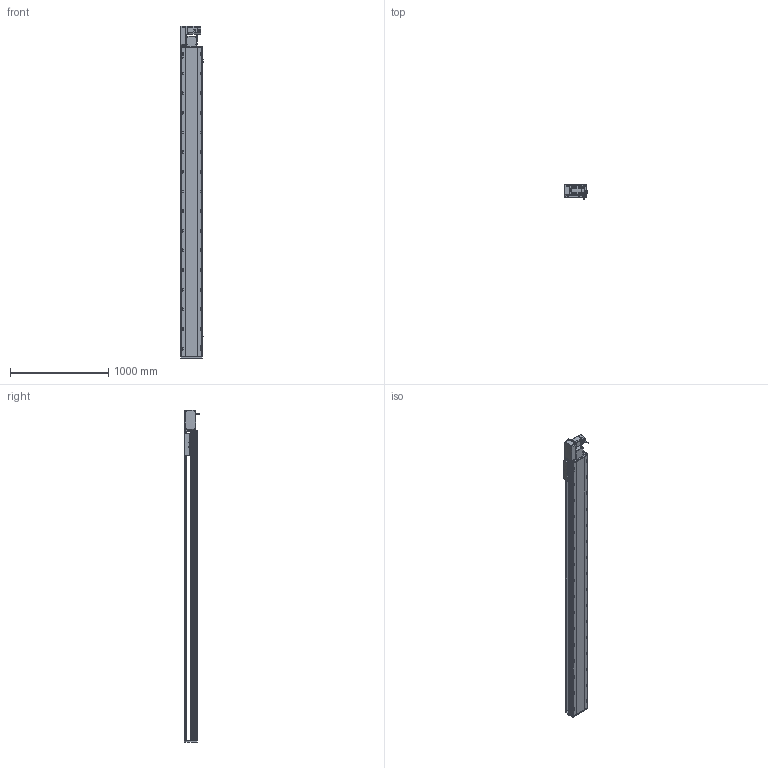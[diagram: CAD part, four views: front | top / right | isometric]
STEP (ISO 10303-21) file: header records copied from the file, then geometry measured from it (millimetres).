
FILE_DESCRIPTION (( 'STEP AP214' ), '1' );
FILE_NAME ('RTB22S-XX-2800-L-M75-C4.STEP', '2025-12-12T03:29:28', ( '' ), ( '' ), 'SwSTEP 2.0', 'SolidWorks 2018', '' );
FILE_SCHEMA (( 'AUTOMOTIVE_DESIGN' ));
Length unit declared in the file: millimetre
Products named in the file (14): RTB22S-XX-2800-L-M75-C4; RTB22S-GY-005P^RTB22S-L-々湍釱蚾饜_RTB22S-XX-XX-L-M75-C4; RTB22S-GY-018P^RTB22S-L-々湍釱蚾饜_RTB22S-XX-XX-L-M75-C4; RTB22S-GY-014--々湍釱^RTB22S-L-々湍釱蚾饜_RTB22S-XX-XX-L-M75-C4; RTB22S-GY-001耜裔^RTB22S-XX-XX-L-M75-C4; RTB22S-L-々湍釱蚾饜^RTB22S-XX-XX-L-M75-C4; RTH22-GY-013外置感应片^RTB22S-XX-XX-L-M75-C4; RTB22S-GY-007奻裔^RTB22S-XX-XX-L-M75-C4; OMRON EE-SX672 传感器^RTB22S-XX-XX-L-M75-C4; RTB22S-L-004賑釱^RTB22S-XX-XX-L-M75-C4; RTB22S-L-011菁釱^RTB22S-XX-XX-L-M75-C4; RTB22S-GY-017P^RTB22S-L-々湍釱蚾饜_RTB22S-XX-XX-L-M75-C4; RTB22S-GY-008-M75--萇儂啣^RTB22S-L-々湍釱蚾饜_RTB22S-XX-XX-L-M75-C4; 750W萇儂^RTB22S-XX-XX-L-M75-C4
Assembly tree (16 placements, depth 3):
  RTB22S-XX-2800-L-M75-C4
    RTB22S-L-011菁釱^RTB22S-XX-XX-L-M75-C4
    750W萇儂^RTB22S-XX-XX-L-M75-C4
    RTB22S-L-004賑釱^RTB22S-XX-XX-L-M75-C4
    OMRON EE-SX672 传感器^RTB22S-XX-XX-L-M75-C4  x3
    RTH22-GY-013外置感应片^RTB22S-XX-XX-L-M75-C4
    RTB22S-GY-007奻裔^RTB22S-XX-XX-L-M75-C4
    RTB22S-GY-001耜裔^RTB22S-XX-XX-L-M75-C4
    RTB22S-L-々湍釱蚾饜^RTB22S-XX-XX-L-M75-C4
      RTB22S-GY-014--々湍釱^RTB22S-L-々湍釱蚾饜_RTB22S-XX-XX-L-M75-C4
      RTB22S-GY-017P^RTB22S-L-々湍釱蚾饜_RTB22S-XX-XX-L-M75-C4  x2
      RTB22S-GY-005P^RTB22S-L-々湍釱蚾饜_RTB22S-XX-XX-L-M75-C4
      RTB22S-GY-008-M75--萇儂啣^RTB22S-L-々湍釱蚾饜_RTB22S-XX-XX-L-M75-C4
      RTB22S-GY-018P^RTB22S-L-々湍釱蚾饜_RTB22S-XX-XX-L-M75-C4
Bounding box: 238.5 x 162.7 x 3379 mm (x, y, z)
Volume: 42262792.4 mm3; surface area: 4312201.7 mm2
Topology: 15 solids, 15 shells, 2127 faces, 5786 edges, 3692 vertices
Faces by surface type: plane 931, cylinder 718, bspline 296, cone 170, sphere 8, torus 4
Entity records: 58032 total; most frequent: CARTESIAN_POINT 16356, ORIENTED_EDGE 8296, DIRECTION 8122, EDGE_CURVE 4148, AXIS2_PLACEMENT_3D 2918, VERTEX_POINT 2696, LINE 2286, VECTOR 2286
